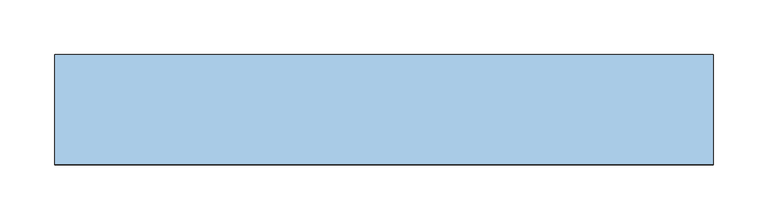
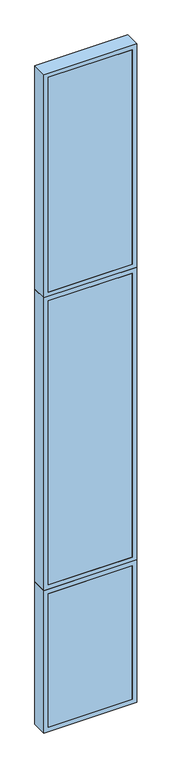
"""IFC4 building model written with IfcOpenShell, lengths in millimetres: window geometry, TRP_CP_ARC_FI_V1 : AL_P01_60."""

import ifcopenshell
import ifcopenshell.guid

model = None  # the IFC model being written
_history = None  # IfcOwnerHistory: only IFC2X3 demands one
_inside = {}  # id of a spatial element -> (the spatial element, [elements in it])
_under = {}  # id of a project, library or spatial element -> (it, [spatial elements below it])
_declared = {}  # id of a project -> (the project, [libraries it declares])
_typed = {}  # id of a type object -> (the type object, [elements of that type])
_made_of = {}  # id of a material, layer set ... -> (it, [elements and type objects made of it])


def new_model(schema):
    """Start an empty IFC model of exactly this schema.

    Asked for "IFC4X3", IfcOpenShell would pick the latest addendum, in which some entities
    have other attributes; the version numbers below select the first issue.
    IFC2X3 requires an IfcOwnerHistory on every rooted entity: one is made here for all.
    """
    global model, _history
    if schema == "IFC4X3":
        model = ifcopenshell.file(schema_version=(4, 3, 0, 0))
    else:
        model = ifcopenshell.file(schema=schema)
    _inside.clear()
    _under.clear()
    _declared.clear()
    _typed.clear()
    _made_of.clear()
    _history = None
    if model.schema == "IFC2X3":
        org = make("IfcOrganization", Name="unknown")
        user = make(
            "IfcPersonAndOrganization",
            ThePerson=make("IfcPerson", FamilyName="unknown"),
            TheOrganization=org,
        )
        app = make(
            "IfcApplication",
            ApplicationDeveloper=org,
            Version="unknown",
            ApplicationFullName="unknown",
            ApplicationIdentifier="unknown",
        )
        _history = make(
            "IfcOwnerHistory",
            OwningUser=user,
            OwningApplication=app,
            ChangeAction="ADDED",
            CreationDate=0,
        )
    return model


def make(cls, **values):
    """One entity of the class cls with the attributes given. An attribute that is None is left unset."""
    return model.create_entity(
        cls, **{name: value for name, value in values.items() if value is not None}
    )


def rooted(cls, **values):
    """An entity with a GlobalId (a new one), such as an element, a storey or a relation."""
    return make(cls, GlobalId=ifcopenshell.guid.new(), OwnerHistory=_history, **values)


def si_unit(unit_type, name, prefix=None):
    """IfcSIUnit, for example si_unit("LENGTHUNIT", "METRE", prefix="MILLI")."""
    return make("IfcSIUnit", UnitType=unit_type, Prefix=prefix, Name=name)


def assignment(units):
    """IfcUnitAssignment: the units of a project."""
    return None if units is None else make("IfcUnitAssignment", Units=units)


def point(xyz):
    """IfcCartesianPoint."""
    return None if xyz is None else make("IfcCartesianPoint", Coordinates=xyz)


def direction(xyz):
    """IfcDirection."""
    return None if xyz is None else make("IfcDirection", DirectionRatios=xyz)


def frame(location, z_axis=None, x_axis=None):
    """IfcAxis2Placement3D, a coordinate frame: its origin and axes. An axis left out is left unset."""
    return make(
        "IfcAxis2Placement3D",
        Location=point(location),
        Axis=direction(z_axis),
        RefDirection=direction(x_axis),
    )


def origin():
    """The frame at (0, 0, 0) with its axes left unset."""
    return frame((0.0, 0.0, 0.0))


def place(relative_to, where):
    """IfcLocalPlacement: puts the frame where relative to a parent placement (None: the world)."""
    return make(
        "IfcLocalPlacement", PlacementRelTo=relative_to, RelativePlacement=where
    )


def context(
    kind, dimensions, precision=None, world=None, true_north=None, identifier=None
):
    """IfcGeometricRepresentationContext, for example the 3D "Model" context."""
    return make(
        "IfcGeometricRepresentationContext",
        ContextIdentifier=identifier,
        ContextType=kind,
        CoordinateSpaceDimension=dimensions,
        Precision=precision,
        WorldCoordinateSystem=world,
        TrueNorth=true_north,
    )


def project(units=None, contexts=None):
    """IfcProject with its units and contexts."""
    return rooted(
        "IfcProject",
        Name="project",
        RepresentationContexts=contexts,
        UnitsInContext=assignment(units),
    )


def spatial(cls, under=None, at=None, **own):
    """A site, building, storey or space (cls), placed at a placement, below another one or the project."""
    s = rooted(cls, ObjectPlacement=at, **own)
    if under is not None:
        _under.setdefault(under.id(), (under, []))[1].append(s)
    return s


def polyline(points):
    """IfcPolyline through the points."""
    return make("IfcPolyline", Points=[point(p) for p in points])


def outline(outer, holes=None, kind="AREA"):
    """IfcArbitraryClosedProfileDef: a profile drawn as a closed curve; with holes, ...WithVoids."""
    if holes is None:
        return make("IfcArbitraryClosedProfileDef", ProfileType=kind, OuterCurve=outer)
    return make(
        "IfcArbitraryProfileDefWithVoids",
        ProfileType=kind,
        OuterCurve=outer,
        InnerCurves=holes,
    )


def extrude(swept, where, along, depth):
    """IfcExtrudedAreaSolid: the profile swept, set in the frame where, extruded along a direction by depth."""
    return make(
        "IfcExtrudedAreaSolid",
        SweptArea=swept,
        Position=where,
        ExtrudedDirection=direction(along),
        Depth=depth,
    )


def shape(context_of_items, identifier, shape_type, items):
    """IfcShapeRepresentation: the items that make up one representation, for example the "Body"."""
    return make(
        "IfcShapeRepresentation",
        ContextOfItems=context_of_items,
        RepresentationIdentifier=identifier,
        RepresentationType=shape_type,
        Items=items,
    )


def source(mapping_origin, context_of_items, identifier, shape_type, items):
    """IfcRepresentationMap: a shape defined once, which mapped items show again and again."""
    return make(
        "IfcRepresentationMap",
        MappingOrigin=mapping_origin,
        MappedRepresentation=shape(context_of_items, identifier, shape_type, items),
    )


def transform(
    local_origin,
    x_axis=None,
    y_axis=None,
    z_axis=None,
    scale=None,
    scale2=None,
    scale3=None,
    uniform=True,
):
    """IfcCartesianTransformationOperator3D, or its non-uniform kind. x_axis, y_axis, z_axis: its Axis1, 2, 3."""
    if uniform:
        return make(
            "IfcCartesianTransformationOperator3D",
            Axis1=direction(x_axis),
            Axis2=direction(y_axis),
            LocalOrigin=point(local_origin),
            Scale=scale,
            Axis3=direction(z_axis),
        )
    return make(
        "IfcCartesianTransformationOperator3DnonUniform",
        Axis1=direction(x_axis),
        Axis2=direction(y_axis),
        LocalOrigin=point(local_origin),
        Scale=scale,
        Axis3=direction(z_axis),
        Scale2=scale2,
        Scale3=scale3,
    )


def mapped(mapping_source, mapping_target):
    """IfcMappedItem: shows the shape of a source again, moved by a transform."""
    return make(
        "IfcMappedItem", MappingSource=mapping_source, MappingTarget=mapping_target
    )


def made_of(thing, what):
    """Note that an element or type object is made of a material, layer set ...; save() writes the relation."""
    if what is not None:
        _made_of.setdefault(what.id(), (what, []))[1].append(thing)
    return thing


def element(
    cls,
    number,
    at=None,
    inside=None,
    cuts=None,
    type_object=None,
    material=None,
    context=None,
    identifier="Body",
    shape_type=None,
    held_by="IfcProductDefinitionShape",
    body=None,
    shapes=None,
    **own,
):
    """One element of the class cls, such as IfcWall. Its Tag is "e" and its number.

    at: its placement. inside: the storey or other place that contains it. cuts: it is an
    opening in that element (IfcRelVoidsElement). A single representation is given by context,
    identifier, shape_type and body (its items); several are given by shapes. held_by: the class
    of the entity that holds the representations. save() writes the other relations.
    """
    e = rooted(cls, Tag="e%d" % number, ObjectPlacement=at, **own)
    if body is not None:
        shapes = [shape(context, identifier, shape_type, body)]
    if shapes is not None:
        e.Representation = make(held_by, Representations=shapes)
    if inside is not None:
        _inside.setdefault(inside.id(), (inside, []))[1].append(e)
    if cuts is not None:
        rooted(
            "IfcRelVoidsElement", RelatingBuildingElement=cuts, RelatedOpeningElement=e
        )
    if type_object is not None:
        _typed.setdefault(type_object.id(), (type_object, []))[1].append(e)
    return made_of(e, material)


def aggregate(whole, parts):
    """IfcRelAggregates: a whole, such as a stair, and the parts it consists of."""
    return rooted("IfcRelAggregates", RelatingObject=whole, RelatedObjects=parts)


def save(model, path):
    """Write the relations noted so far, then the file.

    IfcRelAggregates (storeys below a building ...), IfcRelContainedInSpatialStructure (elements
    in a storey), IfcRelDefinesByType, IfcRelAssociatesMaterial and IfcRelDeclares: one each for
    every whole, place, type object, material and project.
    """
    for whole, parts in _under.values():
        aggregate(whole, parts)
    for where, things in _inside.values():
        rooted(
            "IfcRelContainedInSpatialStructure",
            RelatedElements=things,
            RelatingStructure=where,
        )
    for kind, things in _typed.values():
        rooted("IfcRelDefinesByType", RelatedObjects=things, RelatingType=kind)
    for what, things in _made_of.values():
        rooted("IfcRelAssociatesMaterial", RelatedObjects=things, RelatingMaterial=what)
    for by, libraries in _declared.values():
        rooted("IfcRelDeclares", RelatingContext=by, RelatedDefinitions=libraries)
    model.write(path)


def window_16313ac1(model_context):
    return source(origin(), model_context, "Body", "SweptSolid", [
        extrude(outline(polyline([(270.0, -50.0), (-270.0, -50.0), (-270.0, -30.0), (270.0, -30.0), (270.0, -50.0)])), frame((0.0, 0.0, 30.0), z_axis=(0.0, 0.0, 1.0), x_axis=(1.0, 0.0, 0.0)), (0.0, 0.0, 1.0), 913.0),
        extrude(outline(polyline([(973.0, 300.0), (973.0, -300.0), (0.0, -300.0), (0.0, 300.0), (973.0, 300.0)]), holes=[polyline([(30.0, 270.0), (30.0, -270.0), (943.0, -270.0), (943.0, 270.0), (30.0, 270.0)])]), frame((0.0, -50.0, 0.0), z_axis=(0.0, 1.0, 0.0), x_axis=(0.0, 0.0, 1.0)), (0.0, 0.0, 1.0), 100.0),
        extrude(outline(polyline([(2973.0, 300.0), (2973.0, -300.0), (973.0, -300.0), (973.0, 300.0), (2973.0, 300.0)]), holes=[polyline([(1003.0, 270.0), (1003.0, -270.0), (2943.0, -270.0), (2943.0, 270.0), (1003.0, 270.0)])]), frame((0.0, -50.0, 0.0), z_axis=(0.0, 1.0, 0.0), x_axis=(0.0, 0.0, 1.0)), (0.0, 0.0, 1.0), 100.0),
        extrude(outline(polyline([(270.0, -50.0), (-270.0, -50.0), (-270.0, -30.0), (270.0, -30.0), (270.0, -50.0)])), frame((0.0, 0.0, 1003.0), z_axis=(0.0, 0.0, 1.0), x_axis=(1.0, 0.0, 0.0)), (0.0, 0.0, 1.0), 1940.0),
        extrude(outline(polyline([(4500.0, 300.0), (4500.0, -300.0), (2973.0, -300.0), (2973.0, 300.0), (4500.0, 300.0)]), holes=[polyline([(3003.0, 270.0), (3003.0, -270.0), (4470.0, -270.0), (4470.0, 270.0), (3003.0, 270.0)])]), frame((0.0, -50.0, 0.0), z_axis=(0.0, 1.0, 0.0), x_axis=(0.0, 0.0, 1.0)), (0.0, 0.0, 1.0), 100.0),
        extrude(outline(polyline([(270.0, -50.0), (-270.0, -50.0), (-270.0, -30.0), (270.0, -30.0), (270.0, -50.0)])), frame((0.0, 0.0, 3003.0), z_axis=(0.0, 0.0, 1.0), x_axis=(1.0, 0.0, 0.0)), (0.0, 0.0, 1.0), 1467.0),
    ])


if __name__ == "__main__":
    model = new_model("IFC4")
    model_context = context("Model", 3, world=origin())
    ifc_project = project(units=[si_unit("LENGTHUNIT", "METRE", prefix="MILLI")], contexts=[model_context])
    site = spatial("IfcSite", under=ifc_project)
    building = spatial("IfcBuilding", under=site)
    placement = place(None, origin())
    window_shape = window_16313ac1(model_context)
    element("IfcWindow", 1, ObjectType="TRP_CP_ARC_FI_V1 : AL_P01_60", at=placement, inside=building, context=model_context, shape_type="MappedRepresentation", body=[
        mapped(window_shape, transform((0.0, 0.0, 0.0), x_axis=(1.0, 0.0, 0.0), y_axis=(0.0, 1.0, 0.0), z_axis=(0.0, 0.0, 1.0))),
    ])
    save(model, "model.ifc")
